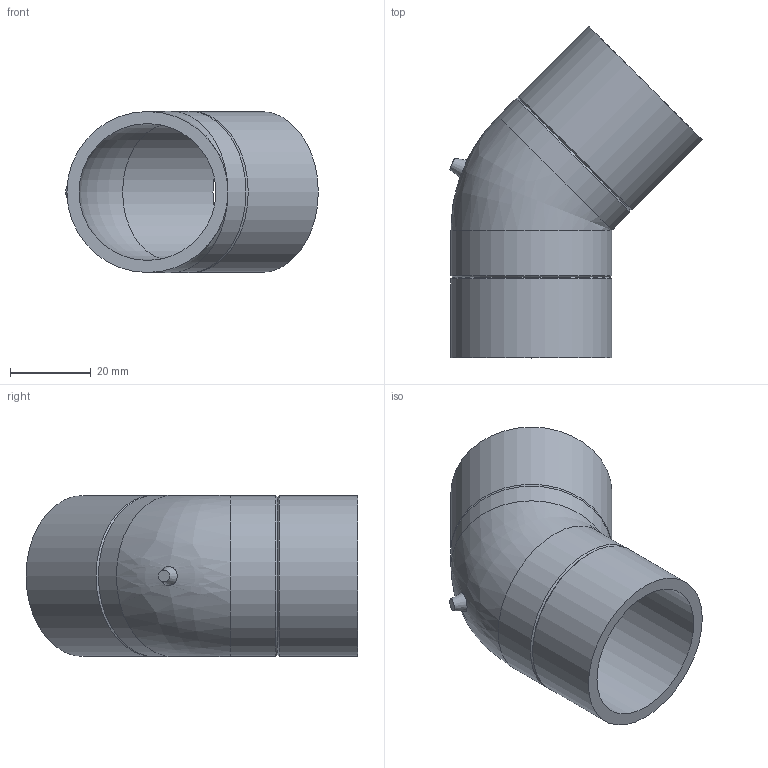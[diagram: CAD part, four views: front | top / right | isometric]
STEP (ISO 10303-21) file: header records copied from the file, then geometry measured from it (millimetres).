
FILE_DESCRIPTION(/* description */ (''),/* implementation_level */ '2;1');
FILE_NAME(/* name */ 'Z:\Geberit\Export\NewStep\PE Bogen Einzelteil_Ipart\stp\360045.stp',/* time_stamp */ '2014-04-02T11:56:10+02:00',/* author */ ('bruh'),/* organization */ (''),/* preprocessor_version */ 'ST-DEVELOPER v15.2',/* originating_system */ 'Autodesk Inventor 2014',/* authorisation */ '');
FILE_SCHEMA (('AUTOMOTIVE_DESIGN { 1 0 10303 214 3 1 1 }'));
Length unit declared in the file: millimetre
Products named in the file (1): 360045
Bounding box: 62.73 x 82.43 x 40 mm (x, y, z)
Volume: 27629.5 mm3; surface area: 19209.7 mm2
Topology: 1 solids, 1 shells, 16 faces, 32 edges, 17 vertices
Faces by surface type: cylinder 6, cone 5, plane 3, torus 1, bspline 1
Full cylindrical faces by diameter (mm): 34 x2, 40 x4
Entity records: 475 total; most frequent: CARTESIAN_POINT 169, DIRECTION 62, ORIENTED_EDGE 32, EDGE_LOOP 31, AXIS2_PLACEMENT_3D 31, FACE_BOUND 18, STYLED_ITEM 17, EDGE_CURVE 16
